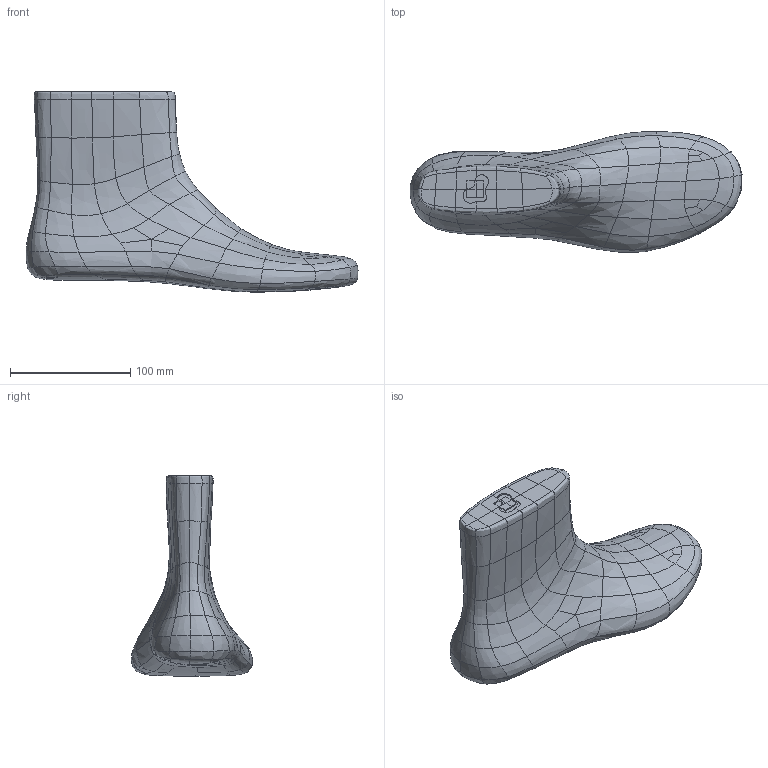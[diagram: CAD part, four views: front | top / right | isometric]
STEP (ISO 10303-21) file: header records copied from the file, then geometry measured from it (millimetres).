
FILE_DESCRIPTION(/* description */ (''),/* implementation_level */ '2;1');
FILE_NAME(License: CC BY-NC-ND 4.0 Statement: This work is licensed under a Creative Commons Attribution-NonCommercial-NoDerivatives 4.0 International License. Link: https://creativecommons.org/licenses/by-nc-nd/4.0/);
FILE_SCHEMA (('CONFIG_CONTROL_DESIGN'));
Length unit declared in the file: millimetre
Products named in the file (1): Document
Bounding box: 276.35 x 100.89 x 166.74 mm (x, y, z)
Volume: 1232001.2 mm3; surface area: 87662.1 mm2
Topology: 1 solids, 1 shells, 251 faces, 528 edges, 280 vertices
Faces by surface type: bspline 227, plane 24
Entity records: 15611 total; most frequent: CARTESIAN_POINT 12079, ORIENTED_EDGE 1056, EDGE_CURVE 528, B_SPLINE_CURVE_WITH_KNOTS 528, VERTEX_POINT 280, EDGE_LOOP 252, ADVANCED_FACE 251, FACE_OUTER_BOUND 251
